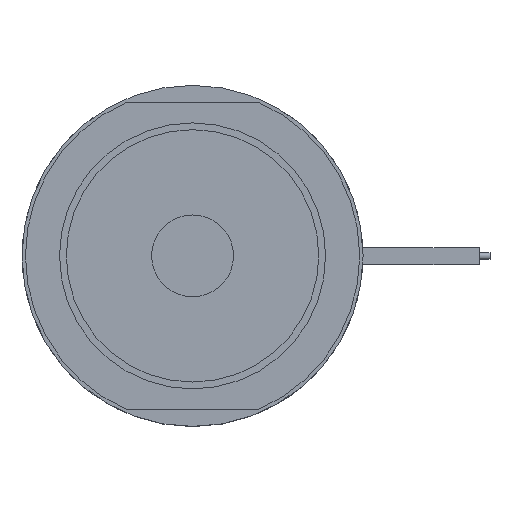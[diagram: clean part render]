
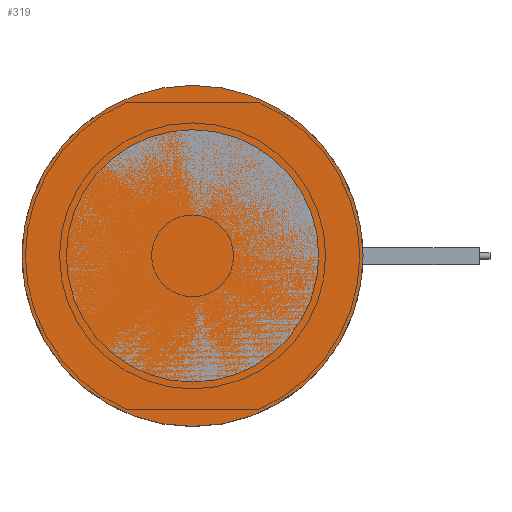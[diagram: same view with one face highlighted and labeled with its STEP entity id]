
A CAD part, top view. The second image highlights one B-rep face of the part: STEP entity #319.
In plain terms, the highlighted planar face has unit normal (0, 0, 1).
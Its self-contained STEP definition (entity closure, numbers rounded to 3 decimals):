
#319=ADVANCED_FACE('',(#417),#383,.F.);
#383=PLANE('',#1108);
#417=FACE_OUTER_BOUND('',#493,.T.);
#493=EDGE_LOOP('',(#621));
#621=ORIENTED_EDGE('',*,*,#916,.F.);
#822=VERTEX_POINT('',#1594);
#916=EDGE_CURVE('',#822,#822,#1019,.T.);
#1019=CIRCLE('',#1107,25.);
#1107=AXIS2_PLACEMENT_3D('',#1593,#1298,#1299);
#1108=AXIS2_PLACEMENT_3D('',#1595,#1300,#1301);
#1298=DIRECTION('',(0.,0.,-1.));
#1299=DIRECTION('',(-1.,0.,0.));
#1300=DIRECTION('',(0.,0.,-1.));
#1301=DIRECTION('',(-1.,0.,0.));
#1593=CARTESIAN_POINT('',(0.,0.,0.));
#1594=CARTESIAN_POINT('',(-25.,0.,0.));
#1595=CARTESIAN_POINT('',(0.,0.,0.));
